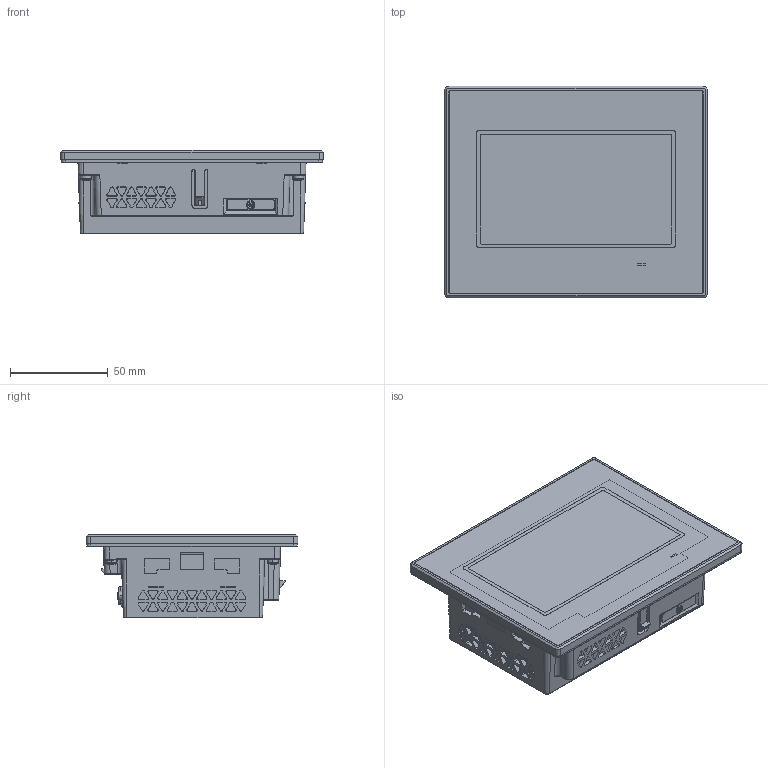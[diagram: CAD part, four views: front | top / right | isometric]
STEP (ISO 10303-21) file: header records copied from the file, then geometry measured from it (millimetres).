
FILE_DESCRIPTION((''),'2;1');
FILE_NAME('QGH7614101_ASM','2019-03-05T',('SESA409019'),('Schneider-Electric'),'PRO/ENGINEER BY PARAMETRIC TECHNOLOGY CORPORATION, 2015440','PRO/ENGINEER BY PARAMETRIC TECHNOLOGY CORPORATION, 2015440','');
FILE_SCHEMA(('CONFIG_CONTROL_DESIGN'));
Products named in the file (1): QGH7614101_ASM
Bounding box: 134.5 x 108.5 x 43 mm (x, y, z)
Volume: 412127.1 mm3; surface area: 115380.7 mm2
Topology: 2 solids, 18 shells, 4734 faces, 13194 edges, 8652 vertices
Faces by surface type: plane 2571, cylinder 770, extrusion 636, cone 348, bspline 265, torus 130, sphere 14
Entity records: 165289 total; most frequent: CARTESIAN_POINT 46876, ORIENTED_EDGE 26320, DIRECTION 21477, EDGE_CURVE 13168, VECTOR 9089, VERTEX_POINT 8652, LINE 8453, AXIS2_PLACEMENT_3D 6194
